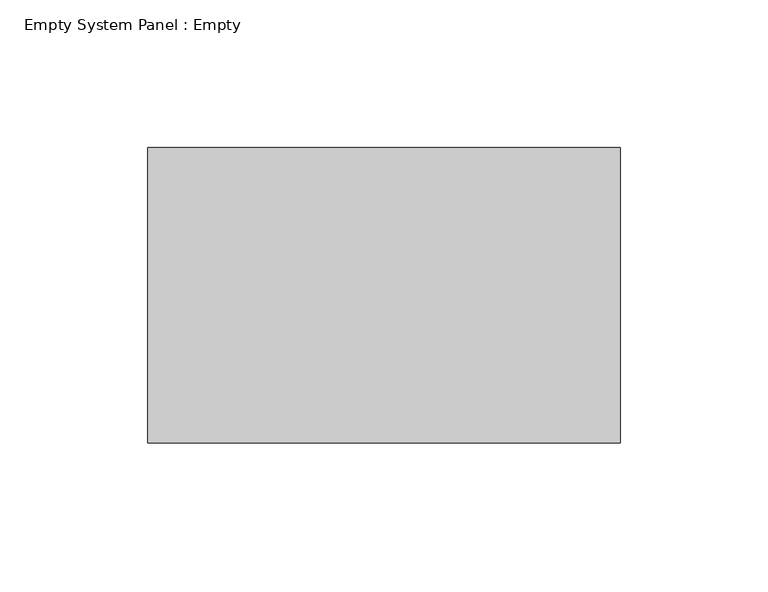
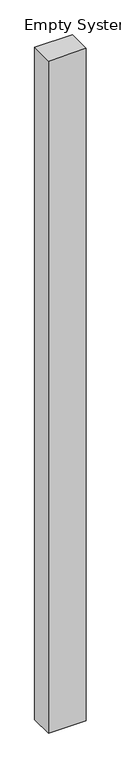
"""IFC4 building model written with IfcOpenShell, lengths in millimetres: plate geometry, Empty System Panel : Empty."""

from ifc_helpers import new_model, si_unit, origin, origin_with_axes, place, context, project, spatial, polyline, outline, extrude, source, transform, mapped, element, save


def empty_system_panel_empty_3b645525(model_context):
    return source(origin(), model_context, "Body", "SweptSolid", [
        extrude(outline(polyline([(80.0000002, 50.0), (-80.0000002, 50.0), (-80.0000002, 150.0), (80.0000002, 150.0), (80.0000002, 50.0)])), origin_with_axes(), (0.0, 0.0, 1.0), 3000.0),
    ])


if __name__ == "__main__":
    model = new_model("IFC4")
    model_context = context("Model", 3, world=origin())
    ifc_project = project(units=[si_unit("LENGTHUNIT", "METRE", prefix="MILLI")], contexts=[model_context])
    site = spatial("IfcSite", under=ifc_project)
    building = spatial("IfcBuilding", under=site)
    placement = place(None, origin())
    empty_system_panel_empty_shape = empty_system_panel_empty_3b645525(model_context)
    element("IfcPlate", 1, ObjectType="Empty System Panel : Empty", at=placement, inside=building, context=model_context, shape_type="MappedRepresentation", body=[
        mapped(empty_system_panel_empty_shape, transform((0.0, 0.0, 0.0), x_axis=(1.0, 0.0, 0.0), y_axis=(0.0, 1.0, 0.0), z_axis=(0.0, 0.0, 1.0))),
    ])
    save(model, "model.ifc")
